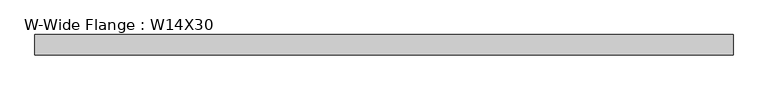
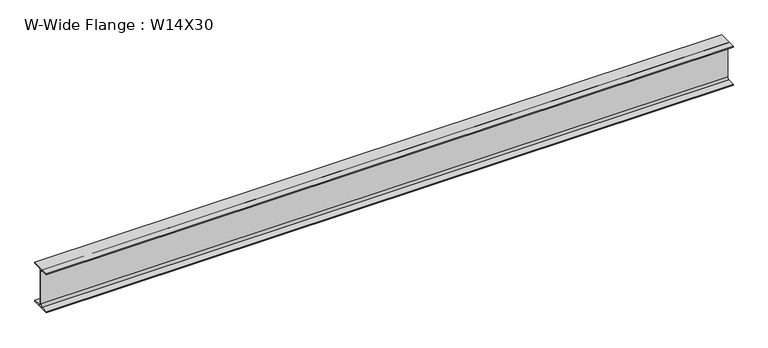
"""IFC4 building model written with IfcOpenShell, lengths in millimetres: beam geometry, W-Wide Flange : W14X30."""

from ifc_helpers import new_model, si_unit, point, frame, frame_2d, origin, place, context, project, spatial, polyline, circle_curve, trimmed, segment, composite_curve, outline, extrude, source, transform, mapped, element, save


def w_wide_flange_w14x30_c5cff1d2(model_context):
    return source(origin(), model_context, "Body", "SweptSolid", [
        extrude(outline(composite_curve([segment(polyline([(85.4769531, -165.9433594), (85.4769531, -175.7660156), (-85.4769531, -175.7660156), (-85.4769531, -165.9433594), (-22.1753906, -165.9433594)]), True, "CONTINUOUS"), segment(trimmed(circle_curve(frame_2d((-22.1753906, -147.1910156)), 18.7523438), [point((-22.1753906, -165.9433594))], [point((-3.4230469, -147.1910156))], True, "CARTESIAN"), True, "CONTINUOUS"), segment(polyline([(-3.4230469, -147.1910156), (-3.4230469, 147.1910156)]), True, "CONTINUOUS"), segment(trimmed(circle_curve(frame_2d((-22.1753906, 147.1910156)), 18.7523438), [point((-3.4230469, 147.1910156))], [point((-22.1753906, 165.9433594))], True, "CARTESIAN"), True, "CONTINUOUS"), segment(polyline([(-22.1753906, 165.9433594), (-85.4769531, 165.9433594), (-85.4769531, 175.7660156), (85.4769531, 175.7660156), (85.4769531, 165.9433594), (22.1753906, 165.9433594)]), True, "CONTINUOUS"), segment(trimmed(circle_curve(frame_2d((22.1753906, 147.1910156)), 18.7523438), [point((22.1753906, 165.9433594))], [point((3.4230469, 147.1910156))], True, "CARTESIAN"), True, "CONTINUOUS"), segment(polyline([(3.4230469, 147.1910156), (3.4230469, -147.1910156)]), True, "CONTINUOUS"), segment(trimmed(circle_curve(frame_2d((22.1753906, -147.1910156)), 18.7523438), [point((3.4230469, -147.1910156))], [point((22.1753906, -165.9433594))], True, "CARTESIAN"), True, "CONTINUOUS"), segment(polyline([(22.1753906, -165.9433594), (85.4769531, -165.9433594)]), True, "CONTINUOUS")], self_intersect=False)), frame((-2934.1960937, 0.0, 0.0), z_axis=(1.0, 0.0, 0.0), x_axis=(0.0, 1.0, 0.0)), (0.0, 0.0, 1.0), 5868.3921875),
    ])


if __name__ == "__main__":
    model = new_model("IFC4")
    model_context = context("Model", 3, world=origin())
    ifc_project = project(units=[si_unit("LENGTHUNIT", "METRE", prefix="MILLI")], contexts=[model_context])
    site = spatial("IfcSite", under=ifc_project)
    building = spatial("IfcBuilding", under=site)
    placement = place(None, origin())
    w_wide_flange_w14x30_shape = w_wide_flange_w14x30_c5cff1d2(model_context)
    element("IfcBeam", 1, ObjectType="W-Wide Flange : W14X30", at=placement, inside=building, context=model_context, shape_type="MappedRepresentation", body=[
        mapped(w_wide_flange_w14x30_shape, transform((0.0, 0.0, 0.0), x_axis=(1.0, 0.0, 0.0), y_axis=(0.0, 1.0, 0.0), z_axis=(0.0, 0.0, 1.0))),
    ])
    save(model, "model.ifc")
